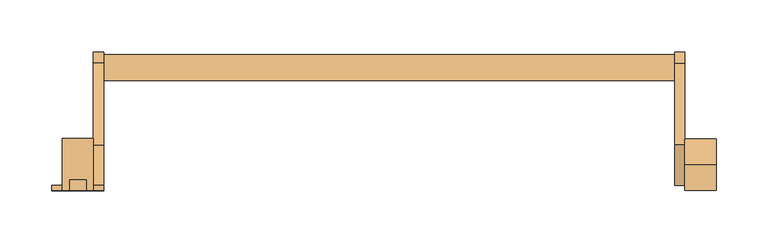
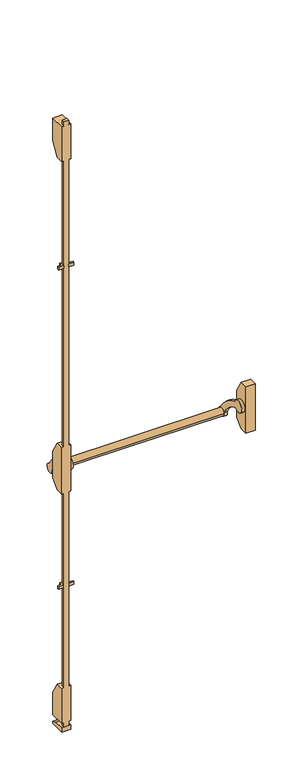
"""IFC4 building model written with IfcOpenShell, lengths in millimetres: door geometry, BarreAP : BarreAP."""

import ifcopenshell
import ifcopenshell.guid

model = None  # the IFC model being written
_history = None  # IfcOwnerHistory: only IFC2X3 demands one
_inside = {}  # id of a spatial element -> (the spatial element, [elements in it])
_under = {}  # id of a project, library or spatial element -> (it, [spatial elements below it])
_declared = {}  # id of a project -> (the project, [libraries it declares])
_typed = {}  # id of a type object -> (the type object, [elements of that type])
_made_of = {}  # id of a material, layer set ... -> (it, [elements and type objects made of it])


def new_model(schema):
    """Start an empty IFC model of exactly this schema.

    Asked for "IFC4X3", IfcOpenShell would pick the latest addendum, in which some entities
    have other attributes; the version numbers below select the first issue.
    IFC2X3 requires an IfcOwnerHistory on every rooted entity: one is made here for all.
    """
    global model, _history
    if schema == "IFC4X3":
        model = ifcopenshell.file(schema_version=(4, 3, 0, 0))
    else:
        model = ifcopenshell.file(schema=schema)
    _inside.clear()
    _under.clear()
    _declared.clear()
    _typed.clear()
    _made_of.clear()
    _history = None
    if model.schema == "IFC2X3":
        org = make("IfcOrganization", Name="unknown")
        user = make(
            "IfcPersonAndOrganization",
            ThePerson=make("IfcPerson", FamilyName="unknown"),
            TheOrganization=org,
        )
        app = make(
            "IfcApplication",
            ApplicationDeveloper=org,
            Version="unknown",
            ApplicationFullName="unknown",
            ApplicationIdentifier="unknown",
        )
        _history = make(
            "IfcOwnerHistory",
            OwningUser=user,
            OwningApplication=app,
            ChangeAction="ADDED",
            CreationDate=0,
        )
    return model


def make(cls, **values):
    """One entity of the class cls with the attributes given. An attribute that is None is left unset."""
    return model.create_entity(
        cls, **{name: value for name, value in values.items() if value is not None}
    )


def rooted(cls, **values):
    """An entity with a GlobalId (a new one), such as an element, a storey or a relation."""
    return make(cls, GlobalId=ifcopenshell.guid.new(), OwnerHistory=_history, **values)


def si_unit(unit_type, name, prefix=None):
    """IfcSIUnit, for example si_unit("LENGTHUNIT", "METRE", prefix="MILLI")."""
    return make("IfcSIUnit", UnitType=unit_type, Prefix=prefix, Name=name)


def assignment(units):
    """IfcUnitAssignment: the units of a project."""
    return None if units is None else make("IfcUnitAssignment", Units=units)


def point(xyz):
    """IfcCartesianPoint."""
    return None if xyz is None else make("IfcCartesianPoint", Coordinates=xyz)


def direction(xyz):
    """IfcDirection."""
    return None if xyz is None else make("IfcDirection", DirectionRatios=xyz)


def frame(location, z_axis=None, x_axis=None):
    """IfcAxis2Placement3D, a coordinate frame: its origin and axes. An axis left out is left unset."""
    return make(
        "IfcAxis2Placement3D",
        Location=point(location),
        Axis=direction(z_axis),
        RefDirection=direction(x_axis),
    )


def frame_2d(location, x_axis=None):
    """IfcAxis2Placement2D, a coordinate frame in the plane: its origin and x axis."""
    return make(
        "IfcAxis2Placement2D", Location=point(location), RefDirection=direction(x_axis)
    )


def origin():
    """The frame at (0, 0, 0) with its axes left unset."""
    return frame((0.0, 0.0, 0.0))


def place(relative_to, where):
    """IfcLocalPlacement: puts the frame where relative to a parent placement (None: the world)."""
    return make(
        "IfcLocalPlacement", PlacementRelTo=relative_to, RelativePlacement=where
    )


def context(
    kind, dimensions, precision=None, world=None, true_north=None, identifier=None
):
    """IfcGeometricRepresentationContext, for example the 3D "Model" context."""
    return make(
        "IfcGeometricRepresentationContext",
        ContextIdentifier=identifier,
        ContextType=kind,
        CoordinateSpaceDimension=dimensions,
        Precision=precision,
        WorldCoordinateSystem=world,
        TrueNorth=true_north,
    )


def project(units=None, contexts=None):
    """IfcProject with its units and contexts."""
    return rooted(
        "IfcProject",
        Name="project",
        RepresentationContexts=contexts,
        UnitsInContext=assignment(units),
    )


def spatial(cls, under=None, at=None, **own):
    """A site, building, storey or space (cls), placed at a placement, below another one or the project."""
    s = rooted(cls, ObjectPlacement=at, **own)
    if under is not None:
        _under.setdefault(under.id(), (under, []))[1].append(s)
    return s


def polyline(points):
    """IfcPolyline through the points."""
    return make("IfcPolyline", Points=[point(p) for p in points])


def circle_curve(where, radius):
    """IfcCircle in the frame where."""
    return make("IfcCircle", Position=where, Radius=radius)


def trimmed(basis, trim1, trim2, sense, master):
    """IfcTrimmedCurve: the piece of a basis curve between two trims."""
    return make(
        "IfcTrimmedCurve",
        BasisCurve=basis,
        Trim1=trim1,
        Trim2=trim2,
        SenseAgreement=sense,
        MasterRepresentation=master,
    )


def segment(curve, same_sense, transition):
    """IfcCompositeCurveSegment."""
    return make(
        "IfcCompositeCurveSegment",
        Transition=transition,
        SameSense=same_sense,
        ParentCurve=curve,
    )


def composite_curve(segments, self_intersect=None):
    """IfcCompositeCurve: segments joined end to end."""
    return make("IfcCompositeCurve", Segments=segments, SelfIntersect=self_intersect)


def outline(outer, holes=None, kind="AREA"):
    """IfcArbitraryClosedProfileDef: a profile drawn as a closed curve; with holes, ...WithVoids."""
    if holes is None:
        return make("IfcArbitraryClosedProfileDef", ProfileType=kind, OuterCurve=outer)
    return make(
        "IfcArbitraryProfileDefWithVoids",
        ProfileType=kind,
        OuterCurve=outer,
        InnerCurves=holes,
    )


def extrude(swept, where, along, depth):
    """IfcExtrudedAreaSolid: the profile swept, set in the frame where, extruded along a direction by depth."""
    return make(
        "IfcExtrudedAreaSolid",
        SweptArea=swept,
        Position=where,
        ExtrudedDirection=direction(along),
        Depth=depth,
    )


def faces_of(points, faces, orient=None, outer=None):
    """IfcFace entities. A face is a list of loops; a loop is a list of indices into points, from 0.

    orient and outer hold one flag for each loop. By default every Orientation is true, the
    first loop of a face is its IfcFaceOuterBound and the others are IfcFaceBound.
    """
    made = []
    for i, loops in enumerate(faces):
        bounds = []
        for j, loop in enumerate(loops):
            is_outer = j == 0 if outer is None else outer[i][j]
            bounds.append(
                make(
                    "IfcFaceOuterBound" if is_outer else "IfcFaceBound",
                    Bound=make("IfcPolyLoop", Polygon=[points[k] for k in loop]),
                    Orientation=True if orient is None else orient[i][j],
                )
            )
        made.append(make("IfcFace", Bounds=bounds))
    return made


def faceted_brep(points, faces, orient=None, outer=None, voids=None):
    """IfcFacetedBrep: a solid bounded by flat faces; with voids (closed shells), ...WithVoids."""
    shared = [point(p) for p in points]
    hull = make("IfcClosedShell", CfsFaces=faces_of(shared, faces, orient, outer))
    if voids is None:
        return make("IfcFacetedBrep", Outer=hull)
    return make(
        "IfcFacetedBrepWithVoids",
        Outer=hull,
        Voids=[
            make(cls, CfsFaces=faces_of(shared, fs, o, b)) for cls, fs, o, b in voids
        ],
    )


def shape(context_of_items, identifier, shape_type, items):
    """IfcShapeRepresentation: the items that make up one representation, for example the "Body"."""
    return make(
        "IfcShapeRepresentation",
        ContextOfItems=context_of_items,
        RepresentationIdentifier=identifier,
        RepresentationType=shape_type,
        Items=items,
    )


def source(mapping_origin, context_of_items, identifier, shape_type, items):
    """IfcRepresentationMap: a shape defined once, which mapped items show again and again."""
    return make(
        "IfcRepresentationMap",
        MappingOrigin=mapping_origin,
        MappedRepresentation=shape(context_of_items, identifier, shape_type, items),
    )


def transform(
    local_origin,
    x_axis=None,
    y_axis=None,
    z_axis=None,
    scale=None,
    scale2=None,
    scale3=None,
    uniform=True,
):
    """IfcCartesianTransformationOperator3D, or its non-uniform kind. x_axis, y_axis, z_axis: its Axis1, 2, 3."""
    if uniform:
        return make(
            "IfcCartesianTransformationOperator3D",
            Axis1=direction(x_axis),
            Axis2=direction(y_axis),
            LocalOrigin=point(local_origin),
            Scale=scale,
            Axis3=direction(z_axis),
        )
    return make(
        "IfcCartesianTransformationOperator3DnonUniform",
        Axis1=direction(x_axis),
        Axis2=direction(y_axis),
        LocalOrigin=point(local_origin),
        Scale=scale,
        Axis3=direction(z_axis),
        Scale2=scale2,
        Scale3=scale3,
    )


def mapped(mapping_source, mapping_target):
    """IfcMappedItem: shows the shape of a source again, moved by a transform."""
    return make(
        "IfcMappedItem", MappingSource=mapping_source, MappingTarget=mapping_target
    )


def made_of(thing, what):
    """Note that an element or type object is made of a material, layer set ...; save() writes the relation."""
    if what is not None:
        _made_of.setdefault(what.id(), (what, []))[1].append(thing)
    return thing


def element(
    cls,
    number,
    at=None,
    inside=None,
    cuts=None,
    type_object=None,
    material=None,
    context=None,
    identifier="Body",
    shape_type=None,
    held_by="IfcProductDefinitionShape",
    body=None,
    shapes=None,
    **own,
):
    """One element of the class cls, such as IfcWall. Its Tag is "e" and its number.

    at: its placement. inside: the storey or other place that contains it. cuts: it is an
    opening in that element (IfcRelVoidsElement). A single representation is given by context,
    identifier, shape_type and body (its items); several are given by shapes. held_by: the class
    of the entity that holds the representations. save() writes the other relations.
    """
    e = rooted(cls, Tag="e%d" % number, ObjectPlacement=at, **own)
    if body is not None:
        shapes = [shape(context, identifier, shape_type, body)]
    if shapes is not None:
        e.Representation = make(held_by, Representations=shapes)
    if inside is not None:
        _inside.setdefault(inside.id(), (inside, []))[1].append(e)
    if cuts is not None:
        rooted(
            "IfcRelVoidsElement", RelatingBuildingElement=cuts, RelatedOpeningElement=e
        )
    if type_object is not None:
        _typed.setdefault(type_object.id(), (type_object, []))[1].append(e)
    return made_of(e, material)


def aggregate(whole, parts):
    """IfcRelAggregates: a whole, such as a stair, and the parts it consists of."""
    return rooted("IfcRelAggregates", RelatingObject=whole, RelatedObjects=parts)


def save(model, path):
    """Write the relations noted so far, then the file.

    IfcRelAggregates (storeys below a building ...), IfcRelContainedInSpatialStructure (elements
    in a storey), IfcRelDefinesByType, IfcRelAssociatesMaterial and IfcRelDeclares: one each for
    every whole, place, type object, material and project.
    """
    for whole, parts in _under.values():
        aggregate(whole, parts)
    for where, things in _inside.values():
        rooted(
            "IfcRelContainedInSpatialStructure",
            RelatedElements=things,
            RelatingStructure=where,
        )
    for kind, things in _typed.values():
        rooted("IfcRelDefinesByType", RelatedObjects=things, RelatingType=kind)
    for what, things in _made_of.values():
        rooted("IfcRelAssociatesMaterial", RelatedObjects=things, RelatingMaterial=what)
    for by, libraries in _declared.values():
        rooted("IfcRelDeclares", RelatingContext=by, RelatedDefinitions=libraries)
    model.write(path)


def door_5e6bc394(model_context):
    return source(origin(), model_context, "Body", "SolidModel", [
        extrude(outline(composite_curve([segment(trimmed(circle_curve(frame_2d((118.8869712, 826.0898817)), 12.5), [point((131.3869712, 826.0898817))], [point((106.3869712, 826.0898817))], False, "CARTESIAN"), True, "CONTINUOUS"), segment(trimmed(circle_curve(frame_2d((118.8869712, 826.0898817)), 12.5), [point((106.3869712, 826.0898817))], [point((131.3869712, 826.0898817))], False, "CARTESIAN"), True, "CONTINUOUS")], self_intersect=False)), frame((25.0, 0.0, 0.0), z_axis=(1.0, 0.0, 0.0), x_axis=(0.0, 1.0, 0.0)), (0.0, 0.0, 1.0), 550.0),
        extrude(outline(composite_curve([segment(trimmed(circle_curve(frame_2d((0.0, 773.4981705)), 140.0), [point((43.940256, 906.4239163))], [point((122.9027189, 840.5423476))], False, "CARTESIAN"), True, "CONTINUOUS"), segment(trimmed(circle_curve(frame_2d((118.8869712, 826.0898817)), 15.0), [point((122.9027189, 840.5423476))], [point((104.960922, 831.663494))], False, "CARTESIAN"), True, "CONTINUOUS"), segment(trimmed(circle_curve(frame_2d((0.0, 773.4981705)), 120.0), [point((104.960922, 831.663494))], [point((39.9080609, 886.6677189))], True, "CARTESIAN"), True, "CONTINUOUS"), segment(trimmed(circle_curve(frame_2d((25.0, 900.0)), 20.0), [point((39.9080609, 886.6677189))], [point((43.940256, 906.4239163))], False, "CARTESIAN"), True, "CONTINUOUS")], self_intersect=False)), frame((575.0, 0.0, 0.0), z_axis=(1.0, 0.0, 0.0), x_axis=(0.0, 1.0, 0.0)), (0.0, 0.0, 1.0), 10.0),
        extrude(outline(composite_curve([segment(trimmed(circle_curve(frame_2d((0.0, 773.4981705)), 140.0), [point((43.940256, 906.4239163))], [point((122.9027189, 840.5423476))], False, "CARTESIAN"), True, "CONTINUOUS"), segment(trimmed(circle_curve(frame_2d((118.8869712, 826.0898817)), 15.0), [point((122.9027189, 840.5423476))], [point((104.960922, 831.663494))], False, "CARTESIAN"), True, "CONTINUOUS"), segment(trimmed(circle_curve(frame_2d((0.0, 773.4981705)), 120.0), [point((104.960922, 831.663494))], [point((39.9080609, 886.6677189))], True, "CARTESIAN"), True, "CONTINUOUS"), segment(trimmed(circle_curve(frame_2d((25.0, 900.0)), 20.0), [point((39.9080609, 886.6677189))], [point((43.940256, 906.4239163))], False, "CARTESIAN"), True, "CONTINUOUS")], self_intersect=False)), frame((15.0, 0.0, 0.0), z_axis=(1.0, 0.0, 0.0), x_axis=(0.0, 1.0, 0.0)), (0.0, 0.0, 1.0), 10.0),
        extrude(outline(polyline([(50.0, 936.6987298), (50.0, 845.0), (25.0, 820.0), (0.0, 820.0), (0.0, 980.0), (25.0, 980.0), (50.0, 936.6987298)])), frame((585.0, 0.0, 0.0), z_axis=(1.0, 0.0, 0.0), x_axis=(0.0, 1.0, 0.0)), (0.0, 0.0, 1.0), 30.0),
        extrude(outline(polyline([(-13.0, 5.0), (-13.0, 15.0), (13.0, 15.0), (13.0, 5.0), (25.0, 5.0), (25.0, 0.0), (8.0, 0.0), (8.0, 10.0), (-8.0, 10.0), (-8.0, 0.0), (-25.0, 0.0), (-25.0, 5.0), (-13.0, 5.0)])), frame((0.0, 0.0, 1595.0), z_axis=(0.0, 0.0, 1.0), x_axis=(1.0, 0.0, 0.0)), (0.0, 0.0, 1.0), 10.0),
        faceted_brep([(15.0, 50.0, 2008.3012702), (15.0, 50.0, 2085.0), (15.0, 0.0, 2085.0), (15.0, 0.0, 1965.0), (15.0, 25.0, 1965.0), (15.0, 50.0, 106.6987298), (15.0, 25.0, 150.0), (15.0, 0.0, 150.0), (15.0, 0.0, 30.0), (15.0, 50.0, 30.0), (-15.0, 50.0, 2008.3012702), (-15.0, 25.0, 1965.0), (-15.0, 0.0, 1965.0), (-15.0, 0.0, 2085.0), (-15.0, 50.0, 2085.0), (-15.0, 50.0, 106.6987298), (-15.0, 50.0, 30.0), (-15.0, 0.0, 30.0), (-15.0, 0.0, 150.0), (-15.0, 25.0, 150.0), (8.0, 0.0, 1965.0), (8.0, 10.0, 1965.0), (-8.0, 10.0, 1965.0), (-8.0, 0.0, 1965.0), (8.0, 0.0, 2085.0), (8.0, 0.0, 2100.0), (-8.0, 0.0, 2100.0), (-8.0, 0.0, 2085.0), (-8.0, 0.0, 980.0), (-15.0, 0.0, 980.0), (-15.0, 0.0, 820.0), (-8.0, 0.0, 820.0), (-8.0, 0.0, 150.0), (-8.0, 0.0, 30.0), (-8.0, 0.0, 15.0), (8.0, 0.0, 15.0), (8.0, 0.0, 30.0), (8.0, 0.0, 150.0), (8.0, 0.0, 820.0), (15.0, 0.0, 820.0), (15.0, 0.0, 980.0), (8.0, 0.0, 980.0), (-8.0, 10.0, 2085.0), (8.0, 10.0, 2085.0), (8.0, 10.0, 30.0), (-8.0, 10.0, 30.0), (-8.0, 10.0, 150.0), (8.0, 10.0, 150.0), (8.0, 10.0, 2100.0), (-8.0, 10.0, 2100.0), (-8.0, 10.0, 15.0), (8.0, 10.0, 15.0), (-8.0, 10.0, 820.0), (-8.0, 10.0, 980.0), (8.0, 10.0, 820.0), (8.0, 10.0, 980.0), (15.0, 25.0, 980.0), (15.0, 25.0, 820.0), (15.0, 50.0, 845.0), (15.0, 50.0, 936.6987298), (-15.0, 25.0, 980.0), (-15.0, 50.0, 936.6987298), (-15.0, 50.0, 845.0), (-15.0, 25.0, 820.0)], [[[0, 1, 2, 3, 4]], [[5, 6, 7, 8, 9]], [[10, 11, 12, 13, 14]], [[15, 16, 17, 18, 19]], [[4, 11, 10, 0]], [[3, 20, 21, 22, 23, 12, 11, 4]], [[2, 24, 25, 26, 27, 13, 12, 23, 28, 29, 30, 31, 32, 18, 17, 33, 34, 35, 36, 8, 7, 37, 38, 39, 40, 41, 20, 3]], [[1, 14, 13, 27, 42, 43, 24, 2]], [[0, 10, 14, 1]], [[9, 16, 15, 5]], [[8, 36, 44, 45, 33, 17, 16, 9]], [[6, 19, 18, 32, 46, 47, 37, 7]], [[5, 15, 19, 6]], [[25, 48, 49, 26]], [[35, 34, 50, 51]], [[34, 33, 45, 50]], [[32, 31, 52, 46]], [[49, 42, 27, 26]], [[22, 53, 28, 23]], [[50, 45, 44, 51]], [[46, 52, 54, 47]], [[48, 43, 42, 49]], [[21, 55, 53, 22]], [[20, 41, 55, 21]], [[25, 24, 43, 48]], [[51, 44, 36, 35]], [[47, 54, 38, 37]], [[56, 40, 39, 57, 58, 59]], [[60, 61, 62, 63, 30, 29]], [[59, 61, 60, 56]], [[58, 62, 61, 59]], [[57, 63, 62, 58]], [[39, 38, 54, 52, 31, 30, 63, 57]], [[56, 60, 29, 28, 53, 55, 41, 40]]]),
        extrude(outline(polyline([(-8.0, 10.0), (-8.0, 0.0), (-25.0, 0.0), (-25.0, 5.0), (-13.0, 5.0), (-13.0, 15.0), (13.0, 15.0), (13.0, 5.0), (25.0, 5.0), (25.0, 0.0), (8.0, 0.0), (8.0, 10.0), (-8.0, 10.0)])), frame((0.0, 0.0, 495.0), z_axis=(0.0, 0.0, 1.0), x_axis=(1.0, 0.0, 0.0)), (0.0, 0.0, 1.0), 10.0),
        extrude(outline(polyline([(32.2782624, 15.0), (50.0, 6.7362181), (50.0, 0.0), (0.0, 0.0), (0.0, 15.0), (32.2782624, 15.0)])), frame((-15.0, 0.0, 0.0), z_axis=(1.0, 0.0, 0.0), x_axis=(0.0, 1.0, 0.0)), (0.0, 0.0, 1.0), 30.0),
    ])


if __name__ == "__main__":
    model = new_model("IFC4")
    model_context = context("Model", 3, world=origin())
    ifc_project = project(units=[si_unit("LENGTHUNIT", "METRE", prefix="MILLI")], contexts=[model_context])
    site = spatial("IfcSite", under=ifc_project)
    building = spatial("IfcBuilding", under=site)
    placement = place(None, origin())
    door_shape = door_5e6bc394(model_context)
    element("IfcDoor", 1, ObjectType="BarreAP : BarreAP", at=placement, inside=building, context=model_context, shape_type="MappedRepresentation", body=[
        mapped(door_shape, transform((0.0, 0.0, 0.0), x_axis=(1.0, 0.0, 0.0), y_axis=(0.0, 1.0, 0.0), z_axis=(0.0, 0.0, 1.0))),
    ])
    save(model, "model.ifc")
